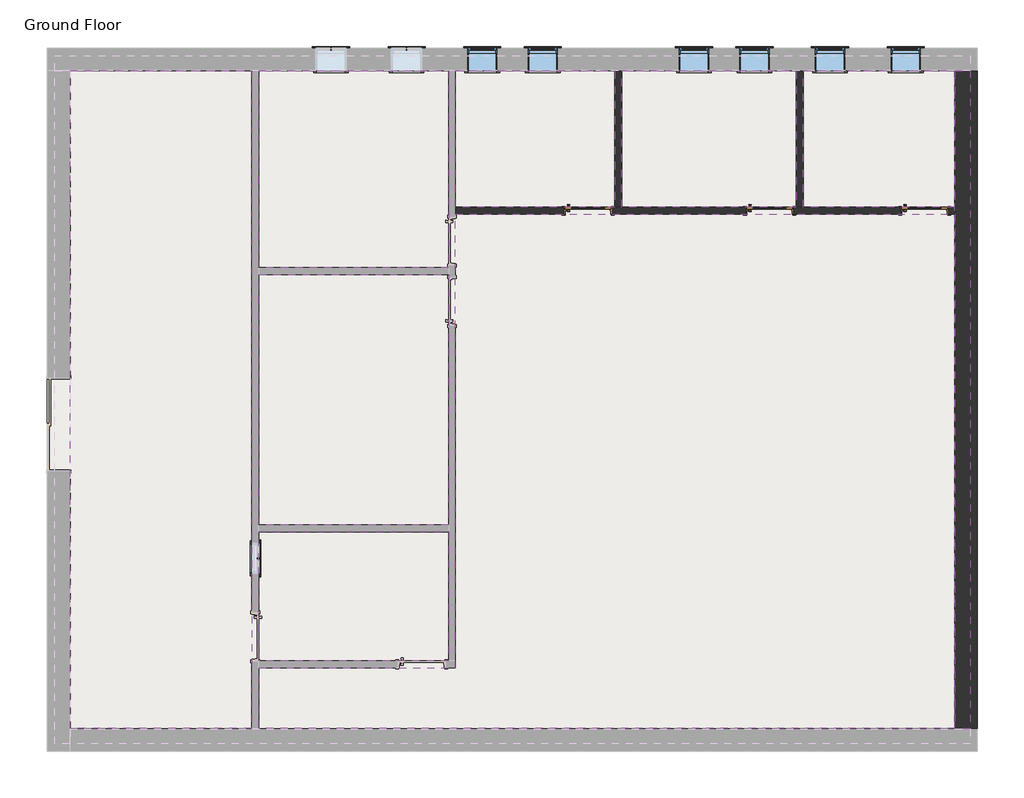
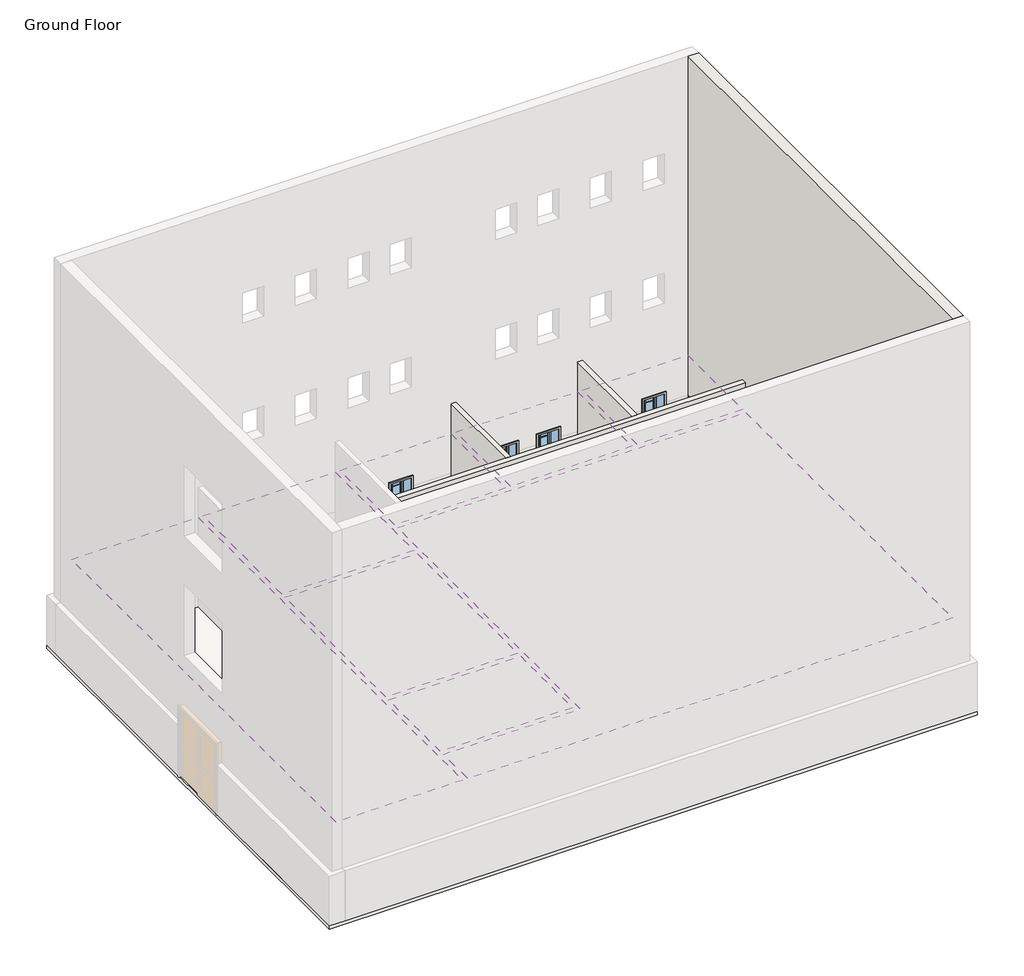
# One storey, part 2 of 2: 27 proxies, 8 coverings, 6 windows, 5 walls, 3 doors, 1 slab.
"""IFC4 building model written with IfcOpenShell, lengths in millimetres."""

from ifc_helpers import new_model, si_unit, frame, origin, origin_with_axes, place, context, project, spatial, polyline, outline, extrude, faceted_brep, transform, mapped, element, save
from components import muntin_pattern_2x2_muntin_pattern_2x2_cf4092f1, muntin_pattern_2x2_muntin_pattern_2x2_49143b38, trim_window_exterior_flat_with_sill_a665a915, trim_window_exterior_flat_with_sill_4c72db77, trim_window_interior_flat_picture_frame_d485c387, trim_window_interior_flat_picture_frame_dfd23ff3, door_918c180d, window_1658a7ae, window_2d4a29d0

model = new_model("IFC4")

# Units and contexts
model_context = context("Model", 3, world=origin())
ifc_project = project(units=[si_unit("LENGTHUNIT", "METRE", prefix="MILLI")], contexts=[model_context])

# Site, building, storey
site = spatial("IfcSite", under=ifc_project)
building = spatial("IfcBuilding", under=site)
storey = spatial("IfcBuildingStorey", under=building, Name="Ground Floor", Elevation=0.0)

# Proxies
placement = place(None, origin())
muntin_pattern_2x2_muntin_pattern_2x2_shape = muntin_pattern_2x2_muntin_pattern_2x2_cf4092f1(model_context)
element("IfcBuildingElementProxy", 1, Name="Muntin Pattern_2x2 : Muntin Pattern_2x2", ObjectType="Muntin Pattern_2x2 : Muntin Pattern_2x2", at=placement, inside=storey, context=model_context, shape_type="MappedRepresentation", body=[
    mapped(muntin_pattern_2x2_muntin_pattern_2x2_shape, transform((-14168.6597136, 1858.8705992, 984.25), x_axis=(0.0, -1.0, 0.0), y_axis=(1.0, 0.0, 0.0), z_axis=(0.0, 0.0, 1.0))),
])
element("IfcBuildingElementProxy", 2, Name="Muntin Pattern_2x2 : Muntin Pattern_2x2", ObjectType="Muntin Pattern_2x2 : Muntin Pattern_2x2", at=placement, inside=storey, context=model_context, shape_type="MappedRepresentation", body=[
    mapped(muntin_pattern_2x2_muntin_pattern_2x2_shape, transform((-1122.5847136, 12134.7580992, 984.25), x_axis=(1.0, 0.0, 0.0), y_axis=(0.0, 1.0, 0.0), z_axis=(0.0, 0.0, 1.0))),
])
element("IfcBuildingElementProxy", 3, Name="Muntin Pattern_2x2 : Muntin Pattern_2x2", ObjectType="Muntin Pattern_2x2 : Muntin Pattern_2x2", at=placement, inside=storey, context=model_context, shape_type="MappedRepresentation", body=[
    mapped(muntin_pattern_2x2_muntin_pattern_2x2_shape, transform((-2646.5847136, 12134.7580992, 984.25), x_axis=(1.0, 0.0, 0.0), y_axis=(0.0, 1.0, 0.0), z_axis=(0.0, 0.0, 1.0))),
])
element("IfcBuildingElementProxy", 4, Name="Muntin Pattern_2x2 : Muntin Pattern_2x2", ObjectType="Muntin Pattern_2x2 : Muntin Pattern_2x2", at=placement, inside=storey, context=model_context, shape_type="MappedRepresentation", body=[
    mapped(muntin_pattern_2x2_muntin_pattern_2x2_shape, transform((-4170.5847136, 12134.7580992, 984.25), x_axis=(1.0, 0.0, 0.0), y_axis=(0.0, 1.0, 0.0), z_axis=(0.0, 0.0, 1.0))),
])
element("IfcBuildingElementProxy", 5, Name="Muntin Pattern_2x2 : Muntin Pattern_2x2", ObjectType="Muntin Pattern_2x2 : Muntin Pattern_2x2", at=placement, inside=storey, context=model_context, shape_type="MappedRepresentation", body=[
    mapped(muntin_pattern_2x2_muntin_pattern_2x2_shape, transform((-5389.7847136, 12134.7580992, 984.25), x_axis=(1.0, 0.0, 0.0), y_axis=(0.0, 1.0, 0.0), z_axis=(0.0, 0.0, 1.0))),
])
muntin_pattern_2x2_muntin_pattern_2x2_2_shape = muntin_pattern_2x2_muntin_pattern_2x2_49143b38(model_context)
element("IfcBuildingElementProxy", 6, Name="Muntin Pattern_2x2 : Muntin Pattern_2x2", ObjectType="Muntin Pattern_2x2 : Muntin Pattern_2x2", at=placement, inside=storey, context=model_context, shape_type="MappedRepresentation", body=[
    mapped(muntin_pattern_2x2_muntin_pattern_2x2_2_shape, transform((-12704.9847136, 12134.7580992, 984.25), x_axis=(-1.0, 0.0, 0.0), y_axis=(0.0, -1.0, 0.0), z_axis=(0.0, 0.0, 1.0))),
])
element("IfcBuildingElementProxy", 7, Name="Muntin Pattern_2x2 : Muntin Pattern_2x2", ObjectType="Muntin Pattern_2x2 : Muntin Pattern_2x2", at=placement, inside=storey, context=model_context, shape_type="MappedRepresentation", body=[
    mapped(muntin_pattern_2x2_muntin_pattern_2x2_2_shape, transform((-11180.9847136, 12134.7580992, 984.25), x_axis=(-1.0, 0.0, 0.0), y_axis=(0.0, -1.0, 0.0), z_axis=(0.0, 0.0, 1.0))),
])
element("IfcBuildingElementProxy", 8, Name="Muntin Pattern_2x2 : Muntin Pattern_2x2", ObjectType="Muntin Pattern_2x2 : Muntin Pattern_2x2", at=placement, inside=storey, context=model_context, shape_type="MappedRepresentation", body=[
    mapped(muntin_pattern_2x2_muntin_pattern_2x2_2_shape, transform((-9656.9847136, 12134.7580992, 984.25), x_axis=(-1.0, 0.0, 0.0), y_axis=(0.0, -1.0, 0.0), z_axis=(0.0, 0.0, 1.0))),
])
element("IfcBuildingElementProxy", 9, Name="Muntin Pattern_2x2 : Muntin Pattern_2x2", ObjectType="Muntin Pattern_2x2 : Muntin Pattern_2x2", at=placement, inside=storey, context=model_context, shape_type="MappedRepresentation", body=[
    mapped(muntin_pattern_2x2_muntin_pattern_2x2_2_shape, transform((-8437.7847136, 12134.7580992, 984.25), x_axis=(-1.0, 0.0, 0.0), y_axis=(0.0, -1.0, 0.0), z_axis=(0.0, 0.0, 1.0))),
])
trim_window_exterior_flat_with_sill_shape = trim_window_exterior_flat_with_sill_a665a915(model_context)
element("IfcBuildingElementProxy", 10, Name="Trim-Window-Exterior-Flat : with Sill", ObjectType="Trim-Window-Exterior-Flat : with Sill", at=placement, inside=storey, context=model_context, shape_type="MappedRepresentation", body=[
    mapped(trim_window_exterior_flat_with_sill_shape, transform((-14159.1347136, 1858.8705992, 1828.8), x_axis=(0.0, 1.0, 0.0), y_axis=(0.0, 0.0, 1.0), z_axis=(1.0, 0.0, 0.0))),
])
element("IfcBuildingElementProxy", 11, Name="Trim-Window-Exterior-Flat : with Sill", ObjectType="Trim-Window-Exterior-Flat : with Sill", at=placement, inside=storey, context=model_context, shape_type="MappedRepresentation", body=[
    mapped(trim_window_exterior_flat_with_sill_shape, transform((-1122.5847136, 12144.2830992, 1828.8), x_axis=(-1.0, 0.0, 0.0), y_axis=(0.0, 0.0, 1.0), z_axis=(0.0, 1.0, 0.0))),
])
element("IfcBuildingElementProxy", 12, Name="Trim-Window-Exterior-Flat : with Sill", ObjectType="Trim-Window-Exterior-Flat : with Sill", at=placement, inside=storey, context=model_context, shape_type="MappedRepresentation", body=[
    mapped(trim_window_exterior_flat_with_sill_shape, transform((-2646.5847136, 12144.2830992, 1828.8), x_axis=(-1.0, 0.0, 0.0), y_axis=(0.0, 0.0, 1.0), z_axis=(0.0, 1.0, 0.0))),
])
element("IfcBuildingElementProxy", 13, Name="Trim-Window-Exterior-Flat : with Sill", ObjectType="Trim-Window-Exterior-Flat : with Sill", at=placement, inside=storey, context=model_context, shape_type="MappedRepresentation", body=[
    mapped(trim_window_exterior_flat_with_sill_shape, transform((-4170.5847136, 12144.2830992, 1828.8), x_axis=(-1.0, 0.0, 0.0), y_axis=(0.0, 0.0, 1.0), z_axis=(0.0, 1.0, 0.0))),
])
element("IfcBuildingElementProxy", 14, Name="Trim-Window-Exterior-Flat : with Sill", ObjectType="Trim-Window-Exterior-Flat : with Sill", at=placement, inside=storey, context=model_context, shape_type="MappedRepresentation", body=[
    mapped(trim_window_exterior_flat_with_sill_shape, transform((-5389.7847136, 12144.2830992, 1828.8), x_axis=(-1.0, 0.0, 0.0), y_axis=(0.0, 0.0, 1.0), z_axis=(0.0, 1.0, 0.0))),
])
trim_window_exterior_flat_with_sill_2_shape = trim_window_exterior_flat_with_sill_4c72db77(model_context)
element("IfcBuildingElementProxy", 15, Name="Trim-Window-Exterior-Flat : with Sill", ObjectType="Trim-Window-Exterior-Flat : with Sill", at=placement, inside=storey, context=model_context, shape_type="MappedRepresentation", body=[
    mapped(trim_window_exterior_flat_with_sill_2_shape, transform((-12704.9847136, 12144.2830992, 1828.8), x_axis=(1.0, 0.0, 0.0), y_axis=(0.0, 0.0, -1.0), z_axis=(0.0, 1.0, 0.0))),
])
element("IfcBuildingElementProxy", 16, Name="Trim-Window-Exterior-Flat : with Sill", ObjectType="Trim-Window-Exterior-Flat : with Sill", at=placement, inside=storey, context=model_context, shape_type="MappedRepresentation", body=[
    mapped(trim_window_exterior_flat_with_sill_2_shape, transform((-11180.9847136, 12144.2830992, 1828.8), x_axis=(1.0, 0.0, 0.0), y_axis=(0.0, 0.0, -1.0), z_axis=(0.0, 1.0, 0.0))),
])
element("IfcBuildingElementProxy", 17, Name="Trim-Window-Exterior-Flat : with Sill", ObjectType="Trim-Window-Exterior-Flat : with Sill", at=placement, inside=storey, context=model_context, shape_type="MappedRepresentation", body=[
    mapped(trim_window_exterior_flat_with_sill_2_shape, transform((-9656.9847136, 12144.2830992, 1828.8), x_axis=(1.0, 0.0, 0.0), y_axis=(0.0, 0.0, -1.0), z_axis=(0.0, 1.0, 0.0))),
])
element("IfcBuildingElementProxy", 18, Name="Trim-Window-Exterior-Flat : with Sill", ObjectType="Trim-Window-Exterior-Flat : with Sill", at=placement, inside=storey, context=model_context, shape_type="MappedRepresentation", body=[
    mapped(trim_window_exterior_flat_with_sill_2_shape, transform((-8437.7847136, 12144.2830992, 1828.8), x_axis=(1.0, 0.0, 0.0), y_axis=(0.0, 0.0, -1.0), z_axis=(0.0, 1.0, 0.0))),
])
trim_window_interior_flat_picture_frame_shape = trim_window_interior_flat_picture_frame_d485c387(model_context)
element("IfcBuildingElementProxy", 19, Name="Trim-Window-Interior-Flat : Picture Frame", ObjectType="Trim-Window-Interior-Flat : Picture Frame", at=placement, inside=storey, context=model_context, shape_type="MappedRepresentation", body=[
    mapped(trim_window_interior_flat_picture_frame_shape, transform((-14298.8347136, 1858.8705992, 1828.8), x_axis=(0.0, -1.0, 0.0), y_axis=(0.0, 0.0, 1.0), z_axis=(-1.0, 0.0, 0.0))),
])
element("IfcBuildingElementProxy", 20, Name="Trim-Window-Interior-Flat : Picture Frame", ObjectType="Trim-Window-Interior-Flat : Picture Frame", at=placement, inside=storey, context=model_context, shape_type="MappedRepresentation", body=[
    mapped(trim_window_interior_flat_picture_frame_shape, transform((-1122.5847136, 11690.2580992, 1828.8), x_axis=(1.0, 0.0, 0.0), y_axis=(0.0, 0.0, 1.0), z_axis=(0.0, -1.0, 0.0))),
])
element("IfcBuildingElementProxy", 21, Name="Trim-Window-Interior-Flat : Picture Frame", ObjectType="Trim-Window-Interior-Flat : Picture Frame", at=placement, inside=storey, context=model_context, shape_type="MappedRepresentation", body=[
    mapped(trim_window_interior_flat_picture_frame_shape, transform((-2646.5847136, 11690.2580992, 1828.8), x_axis=(1.0, 0.0, 0.0), y_axis=(0.0, 0.0, 1.0), z_axis=(0.0, -1.0, 0.0))),
])
element("IfcBuildingElementProxy", 22, Name="Trim-Window-Interior-Flat : Picture Frame", ObjectType="Trim-Window-Interior-Flat : Picture Frame", at=placement, inside=storey, context=model_context, shape_type="MappedRepresentation", body=[
    mapped(trim_window_interior_flat_picture_frame_shape, transform((-4170.5847136, 11690.2580992, 1828.8), x_axis=(1.0, 0.0, 0.0), y_axis=(0.0, 0.0, 1.0), z_axis=(0.0, -1.0, 0.0))),
])
element("IfcBuildingElementProxy", 23, Name="Trim-Window-Interior-Flat : Picture Frame", ObjectType="Trim-Window-Interior-Flat : Picture Frame", at=placement, inside=storey, context=model_context, shape_type="MappedRepresentation", body=[
    mapped(trim_window_interior_flat_picture_frame_shape, transform((-5389.7847136, 11690.2580992, 1828.8), x_axis=(1.0, 0.0, 0.0), y_axis=(0.0, 0.0, 1.0), z_axis=(0.0, -1.0, 0.0))),
])
trim_window_interior_flat_picture_frame_2_shape = trim_window_interior_flat_picture_frame_dfd23ff3(model_context)
element("IfcBuildingElementProxy", 24, Name="Trim-Window-Interior-Flat : Picture Frame", ObjectType="Trim-Window-Interior-Flat : Picture Frame", at=placement, inside=storey, context=model_context, shape_type="MappedRepresentation", body=[
    mapped(trim_window_interior_flat_picture_frame_2_shape, transform((-12704.9847136, 11690.2580992, 1828.8), x_axis=(-1.0, 0.0, 0.0), y_axis=(0.0, 0.0, -1.0), z_axis=(0.0, -1.0, 0.0))),
])
element("IfcBuildingElementProxy", 25, Name="Trim-Window-Interior-Flat : Picture Frame", ObjectType="Trim-Window-Interior-Flat : Picture Frame", at=placement, inside=storey, context=model_context, shape_type="MappedRepresentation", body=[
    mapped(trim_window_interior_flat_picture_frame_2_shape, transform((-11180.9847136, 11690.2580992, 1828.8), x_axis=(-1.0, 0.0, 0.0), y_axis=(0.0, 0.0, -1.0), z_axis=(0.0, -1.0, 0.0))),
])
element("IfcBuildingElementProxy", 26, Name="Trim-Window-Interior-Flat : Picture Frame", ObjectType="Trim-Window-Interior-Flat : Picture Frame", at=placement, inside=storey, context=model_context, shape_type="MappedRepresentation", body=[
    mapped(trim_window_interior_flat_picture_frame_2_shape, transform((-9656.9847136, 11690.2580992, 1828.8), x_axis=(-1.0, 0.0, 0.0), y_axis=(0.0, 0.0, -1.0), z_axis=(0.0, -1.0, 0.0))),
])
element("IfcBuildingElementProxy", 27, Name="Trim-Window-Interior-Flat : Picture Frame", ObjectType="Trim-Window-Interior-Flat : Picture Frame", at=placement, inside=storey, context=model_context, shape_type="MappedRepresentation", body=[
    mapped(trim_window_interior_flat_picture_frame_2_shape, transform((-8437.7847136, 11690.2580992, 1828.8), x_axis=(-1.0, 0.0, 0.0), y_axis=(0.0, 0.0, -1.0), z_axis=(0.0, -1.0, 0.0))),
])

# Coverings
element("IfcCovering", 28, ObjectType="GWB on Mtl. Stud", at=placement, inside=storey, context=model_context, shape_type="SweptSolid", body=[
    extrude(outline(polyline([(-17964.3722136, 11690.2580992), (-14298.8347136, 11690.2580992), (-14298.8347136, -1571.7169008), (-17964.3722136, -1571.7169008), (-17964.3722136, 11690.2580992)])), frame((0.0, 0.0, 2743.2), z_axis=(0.0, 0.0, 1.0), x_axis=(1.0, 0.0, 0.0)), (0.0, 0.0, 1.0), 107.95),
])
element("IfcCovering", 29, ObjectType="GWB on Mtl. Stud", at=placement, inside=storey, context=model_context, shape_type="SweptSolid", body=[
    extrude(outline(polyline([(-14159.1347136, 7719.9205992), (-14159.1347136, 11690.2580992), (-10336.4347136, 11690.2580992), (-10336.4347136, 7719.9205992), (-14159.1347136, 7719.9205992)])), frame((0.0, 0.0, 2743.2), z_axis=(0.0, 0.0, 1.0), x_axis=(1.0, 0.0, 0.0)), (0.0, 0.0, 1.0), 107.95),
])
element("IfcCovering", 30, ObjectType="GWB on Mtl. Stud", at=placement, inside=storey, context=model_context, shape_type="SweptSolid", body=[
    extrude(outline(polyline([(-10336.4347136, 2538.3205992), (-14159.1347136, 2538.3205992), (-14159.1347136, 7580.2205992), (-10336.4347136, 7580.2205992), (-10336.4347136, 2538.3205992)])), frame((0.0, 0.0, 2743.2), z_axis=(0.0, 0.0, 1.0), x_axis=(1.0, 0.0, 0.0)), (0.0, 0.0, 1.0), 107.95),
])
element("IfcCovering", 31, ObjectType="GWB on Mtl. Stud", at=placement, inside=storey, context=model_context, shape_type="SweptSolid", body=[
    extrude(outline(polyline([(-10336.4347136, -204.8794008), (-14159.1347136, -204.8794008), (-14159.1347136, 2398.6205992), (-10336.4347136, 2398.6205992), (-10336.4347136, -204.8794008)])), frame((0.0, 0.0, 2743.2), z_axis=(0.0, 0.0, 1.0), x_axis=(1.0, 0.0, 0.0)), (0.0, 0.0, 1.0), 107.95),
])
element("IfcCovering", 32, ObjectType="GWB on Mtl. Stud", at=placement, inside=storey, context=model_context, shape_type="SweptSolid", body=[
    extrude(outline(polyline([(-10196.7347136, 11690.2580992), (-6983.6347136, 11690.2580992), (-6983.6347136, 8939.1205992), (-10196.7347136, 8939.1205992), (-10196.7347136, 11690.2580992)])), frame((0.0, 0.0, 2743.2), z_axis=(0.0, 0.0, 1.0), x_axis=(1.0, 0.0, 0.0)), (0.0, 0.0, 1.0), 107.95),
])
element("IfcCovering", 33, ObjectType="GWB on Mtl. Stud", at=placement, inside=storey, context=model_context, shape_type="SweptSolid", body=[
    extrude(outline(polyline([(-6843.9347136, 8939.1205992), (-6843.9347136, 11690.2580992), (-3326.0347136, 11690.2580992), (-3326.0347136, 8939.1205992), (-6843.9347136, 8939.1205992)])), frame((0.0, 0.0, 2743.2), z_axis=(0.0, 0.0, 1.0), x_axis=(1.0, 0.0, 0.0)), (0.0, 0.0, 1.0), 107.95),
])
element("IfcCovering", 34, ObjectType="GWB on Mtl. Stud", at=placement, inside=storey, context=model_context, shape_type="SweptSolid", body=[
    extrude(outline(polyline([(-3186.3347136, 8939.1205992), (-3186.3347136, 11690.2580992), (-130.3972136, 11690.2580992), (-130.3972136, 8939.1205992), (-3186.3347136, 8939.1205992)])), frame((0.0, 0.0, 2743.2), z_axis=(0.0, 0.0, 1.0), x_axis=(1.0, 0.0, 0.0)), (0.0, 0.0, 1.0), 107.95),
])
element("IfcCovering", 35, ObjectType="GWB on Mtl. Stud", at=placement, inside=storey, context=model_context, shape_type="SweptSolid", body=[
    extrude(outline(polyline([(-130.3972136, -1571.7169008), (-14159.1347136, -1571.7169008), (-14159.1347136, -344.5794008), (-10196.7347136, -344.5794008), (-10196.7347136, 8799.4205992), (-130.3972136, 8799.4205992), (-130.3972136, -1571.7169008)])), frame((0.0, 0.0, 2743.2), z_axis=(0.0, 0.0, 1.0), x_axis=(1.0, 0.0, 0.0)), (0.0, 0.0, 1.0), 107.95),
])

# Doors
door_shape = door_918c180d(model_context)
element("IfcDoor", 36, ObjectType="Door-Interior-Single-Full Glass-Wood : 36\" x 84\"", at=placement, inside=storey, context=model_context, shape_type="MappedRepresentation", body=[
    mapped(door_shape, transform((-7523.3847136, 8872.4455992, 0.0), x_axis=(1.0, 0.0, 0.0), y_axis=(0.0, 1.0, 0.0), z_axis=(0.0, 0.0, 1.0))),
])
element("IfcDoor", 37, ObjectType="Door-Interior-Single-Full Glass-Wood : 36\" x 84\"", at=placement, inside=storey, context=model_context, shape_type="MappedRepresentation", body=[
    mapped(door_shape, transform((-3865.7847136, 8872.4455992, 0.0), x_axis=(1.0, 0.0, 0.0), y_axis=(0.0, 1.0, 0.0), z_axis=(0.0, 0.0, 1.0))),
])
element("IfcDoor", 38, ObjectType="Door-Interior-Single-Full Glass-Wood : 36\" x 84\"", at=placement, inside=storey, context=model_context, shape_type="MappedRepresentation", body=[
    mapped(door_shape, transform((-739.9972136, 8872.4455992, 0.0), x_axis=(1.0, 0.0, 0.0), y_axis=(0.0, 1.0, 0.0), z_axis=(0.0, 0.0, 1.0))),
])

# Slab
element("IfcSlab", 39, ObjectType="LW Concrete on Metal Deck", at=placement, inside=storey, context=model_context, shape_type="SweptSolid", body=[
    extrude(outline(polyline([(323.6277864, 12144.2830992), (323.6277864, -2025.7419008), (-18418.3972136, -2025.7419008), (-18418.3972136, 12144.2830992), (323.6277864, 12144.2830992)])), frame((0.0, 0.0, -104.775), z_axis=(0.0, 0.0, 1.0), x_axis=(1.0, 0.0, 0.0)), (0.0, 0.0, 1.0), 104.775),
])

# Walls
element("IfcWall", 40, ObjectType="Exterior - CMU on Mtl. Stud", at=placement, inside=storey, context=model_context, shape_type="Brep", body=[
    faceted_brep([(-130.3972136, 11690.2580992, 0.0), (-130.3972136, 8939.1205992, 0.0), (-130.3972136, 8799.4205992, 0.0), (-130.3972136, -1571.7169008, 0.0), (-130.3972136, -1571.7169008, 1524.0), (-130.3972136, 11690.2580992, 1524.0), (323.6277864, 11690.2580992, 0.0), (323.6277864, 11690.2580992, 1524.0), (323.6277864, -1571.7169008, 1524.0), (323.6277864, -1571.7169008, 0.0), (180.7527864, -1571.7169008, 1524.0), (180.7527864, 11690.2580992, 1524.0)], [[[0, 1, 2, 3, 4, 5]], [[6, 7, 8, 9]], [[3, 2, 1, 0, 6, 9]], [[5, 4, 10, 8, 7, 11]], [[0, 5, 11, 7, 6]], [[4, 3, 9, 8, 10]]]),
])
element("IfcWall", 41, ObjectType="Exterior - EIFS on Mtl. Stud", at=placement, inside=storey, context=model_context, shape_type="SweptSolid", body=[
    extrude(outline(polyline([(-130.3972136, -1571.7169008), (-130.3972136, 11690.2580992), (180.7527864, 11690.2580992), (180.7527864, -1571.7169008), (-130.3972136, -1571.7169008)])), frame((0.0, 0.0, 1524.0), z_axis=(0.0, 0.0, 1.0), x_axis=(1.0, 0.0, 0.0)), (0.0, 0.0, 1.0), 10363.2),
])
element("IfcWall", 42, ObjectType="Interior - 5 1/2\" Partition (1-hr)", at=placement, inside=storey, context=model_context, shape_type="Brep", body=[
    faceted_brep([(-10196.7347136, 8939.1205992, 3657.6), (-6983.6347136, 8939.1205992, 3657.6), (-6843.9347136, 8939.1205992, 3657.6), (-3326.0347136, 8939.1205992, 3657.6), (-3186.3347136, 8939.1205992, 3657.6), (-130.3972136, 8939.1205992, 3657.6), (-130.3972136, 8939.1205992, 0.0), (-257.3972136, 8939.1205992, 0.0), (-257.3972136, 8939.1205992, 2159.0), (-1222.5972136, 8939.1205992, 2159.0), (-1222.5972136, 8939.1205992, 0.0), (-3186.3347136, 8939.1205992, 0.0), (-3326.0347136, 8939.1205992, 0.0), (-3383.1847136, 8939.1205992, 0.0), (-3383.1847136, 8939.1205992, 2159.0), (-4348.3847136, 8939.1205992, 2159.0), (-4348.3847136, 8939.1205992, 0.0), (-6843.9347136, 8939.1205992, 0.0), (-6983.6347136, 8939.1205992, 0.0), (-7040.7847136, 8939.1205992, 0.0), (-7040.7847136, 8939.1205992, 2159.0), (-8005.9847136, 8939.1205992, 2159.0), (-8005.9847136, 8939.1205992, 0.0), (-10196.7347136, 8939.1205992, 0.0), (-130.3972136, 8799.4205992, 3657.6), (-10196.7347136, 8799.4205992, 3657.6), (-10196.7347136, 8799.4205992, 0.0), (-8005.9847136, 8799.4205992, 0.0), (-8005.9847136, 8799.4205992, 2159.0), (-7040.7847136, 8799.4205992, 2159.0), (-7040.7847136, 8799.4205992, 0.0), (-4348.3847136, 8799.4205992, 0.0), (-4348.3847136, 8799.4205992, 2159.0), (-3383.1847136, 8799.4205992, 2159.0), (-3383.1847136, 8799.4205992, 0.0), (-1222.5972136, 8799.4205992, 0.0), (-1222.5972136, 8799.4205992, 2159.0), (-257.3972136, 8799.4205992, 2159.0), (-257.3972136, 8799.4205992, 0.0), (-130.3972136, 8799.4205992, 0.0)], [[[0, 1, 2, 3, 4, 5, 6, 7, 8, 9, 10, 11, 12, 13, 14, 15, 16, 17, 18, 19, 20, 21, 22, 23]], [[24, 25, 26, 27, 28, 29, 30, 31, 32, 33, 34, 35, 36, 37, 38, 39]], [[6, 39, 38, 7]], [[26, 23, 22, 27]], [[30, 19, 18, 17, 16, 31]], [[34, 13, 12, 11, 10, 35]], [[5, 4, 3, 2, 1, 0, 25, 24]], [[39, 6, 5, 24]], [[0, 23, 26, 25]], [[29, 20, 19, 30]], [[20, 29, 28, 21]], [[21, 28, 27, 22]], [[33, 14, 13, 34]], [[14, 33, 32, 15]], [[15, 32, 31, 16]], [[37, 8, 7, 38]], [[8, 37, 36, 9]], [[9, 36, 35, 10]]]),
])
element("IfcWall", 43, ObjectType="Interior - 5 1/2\" Partition (1-hr)", at=placement, inside=storey, context=model_context, shape_type="SweptSolid", body=[
    extrude(outline(polyline([(-3326.0347136, 8939.1205992), (-3326.0347136, 11690.2580992), (-3186.3347136, 11690.2580992), (-3186.3347136, 8939.1205992), (-3326.0347136, 8939.1205992)])), origin_with_axes(), (0.0, 0.0, 1.0), 3657.6),
])
element("IfcWall", 44, ObjectType="Interior - 5 1/2\" Partition (1-hr)", at=placement, inside=storey, context=model_context, shape_type="SweptSolid", body=[
    extrude(outline(polyline([(-6983.6347136, 8939.1205992), (-6983.6347136, 11690.2580992), (-6843.9347136, 11690.2580992), (-6843.9347136, 8939.1205992), (-6983.6347136, 8939.1205992)])), origin_with_axes(), (0.0, 0.0, 1.0), 3657.6),
])

# Windows
window_shape = window_1658a7ae(model_context)
element("IfcWindow", 45, ObjectType="Window-Awning-Single : 24\" x 36\"", at=placement, inside=storey, context=model_context, shape_type="MappedRepresentation", body=[
    mapped(window_shape, transform((-1122.5847136, 11917.2705992, 0.0), x_axis=(1.0, 0.0, 0.0), y_axis=(0.0, 1.0, 0.0), z_axis=(0.0, 0.0, 1.0))),
])
element("IfcWindow", 46, ObjectType="Window-Awning-Single : 24\" x 36\"", at=placement, inside=storey, context=model_context, shape_type="MappedRepresentation", body=[
    mapped(window_shape, transform((-2646.5847136, 11917.2705992, 0.0), x_axis=(1.0, 0.0, 0.0), y_axis=(0.0, 1.0, 0.0), z_axis=(0.0, 0.0, 1.0))),
])
element("IfcWindow", 47, ObjectType="Window-Awning-Single : 24\" x 36\"", at=placement, inside=storey, context=model_context, shape_type="MappedRepresentation", body=[
    mapped(window_shape, transform((-4170.5847136, 11917.2705992, 0.0), x_axis=(1.0, 0.0, 0.0), y_axis=(0.0, 1.0, 0.0), z_axis=(0.0, 0.0, 1.0))),
])
element("IfcWindow", 48, ObjectType="Window-Awning-Single : 24\" x 36\"", at=placement, inside=storey, context=model_context, shape_type="MappedRepresentation", body=[
    mapped(window_shape, transform((-5389.7847136, 11917.2705992, 0.0), x_axis=(1.0, 0.0, 0.0), y_axis=(0.0, 1.0, 0.0), z_axis=(0.0, 0.0, 1.0))),
])
window_2_shape = window_2d4a29d0(model_context)
element("IfcWindow", 49, ObjectType="Window-Awning-Single : 24\" x 36\"", at=placement, inside=storey, context=model_context, shape_type="MappedRepresentation", body=[
    mapped(window_2_shape, transform((-9656.9847136, 11917.2705992, 0.0), x_axis=(-1.0, 0.0, 0.0), y_axis=(0.0, -1.0, 0.0), z_axis=(0.0, 0.0, 1.0))),
])
element("IfcWindow", 50, ObjectType="Window-Awning-Single : 24\" x 36\"", at=placement, inside=storey, context=model_context, shape_type="MappedRepresentation", body=[
    mapped(window_2_shape, transform((-8437.7847136, 11917.2705992, 0.0), x_axis=(-1.0, 0.0, 0.0), y_axis=(0.0, -1.0, 0.0), z_axis=(0.0, 0.0, 1.0))),
])

save(model, "model.ifc")
